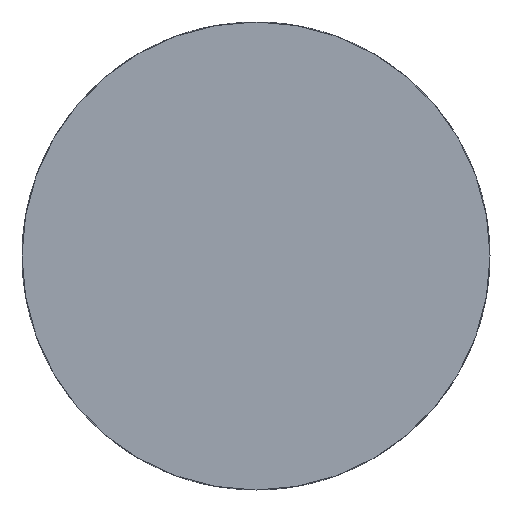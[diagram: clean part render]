
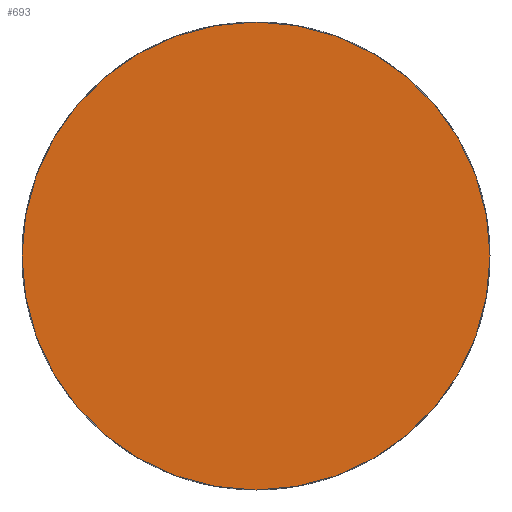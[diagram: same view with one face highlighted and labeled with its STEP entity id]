
A CAD part, left-side view. The second image highlights one B-rep face of the part: STEP entity #693.
In plain terms, the highlighted planar face has unit normal (-1, 0, 0).
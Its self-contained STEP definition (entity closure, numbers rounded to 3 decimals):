
#693 = ADVANCED_FACE( '', ( #1469 ), #1470, .F. );
#1469 = FACE_OUTER_BOUND( '', #2326, .T. );
#1470 = PLANE( '', #2327 );
#2326 = EDGE_LOOP( '', ( #4234 ) );
#2327 = AXIS2_PLACEMENT_3D( '', #4235, #4236, #4237 );
#4234 = ORIENTED_EDGE( '', *, *, #6260, .F. );
#4235 = CARTESIAN_POINT( '', ( 0., 0., 0. ) );
#4236 = DIRECTION( '', ( 1., 0., 0. ) );
#4237 = DIRECTION( '', ( 0., 1., 0. ) );
#6260 = EDGE_CURVE( '', #7894, #7894, #7895, .T. );
#7894 = VERTEX_POINT( '', #9990 );
#7895 = CIRCLE( '', #9991, 16.33 );
#9990 = CARTESIAN_POINT( '', ( 0., 16.33, 0. ) );
#9991 = AXIS2_PLACEMENT_3D( '', #11538, #11539, #11540 );
#11538 = CARTESIAN_POINT( '', ( 0., 0., 0. ) );
#11539 = DIRECTION( '', ( 1., 0., 0. ) );
#11540 = DIRECTION( '', ( 0., 1., 0. ) );
